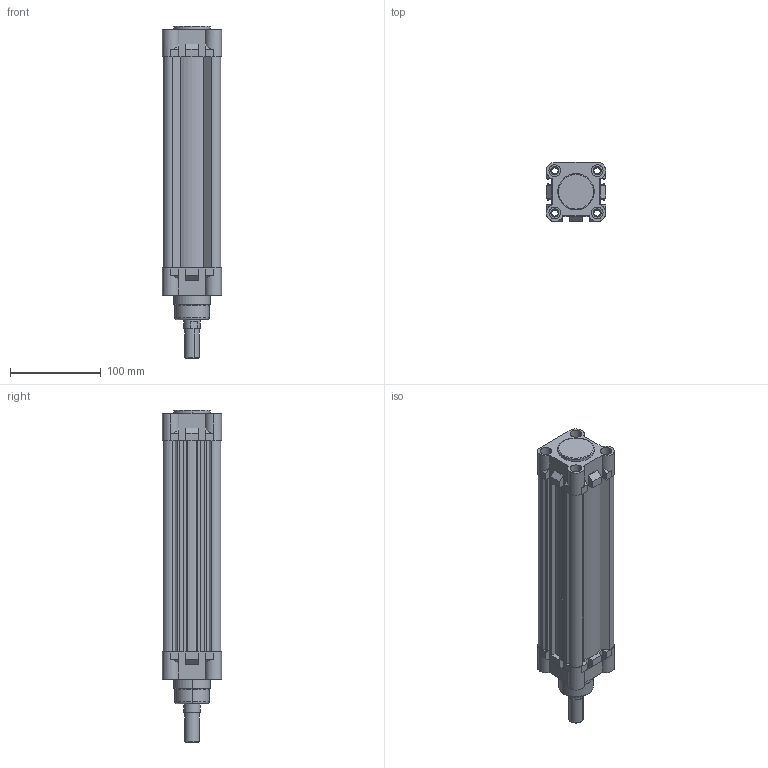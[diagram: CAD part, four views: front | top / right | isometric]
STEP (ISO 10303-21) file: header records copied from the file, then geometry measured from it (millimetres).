
FILE_DESCRIPTION (( 'STEP AP214' ), '1' );
FILE_NAME ('RIC50_200_MY_WEB.STEP', '2020-07-05T17:31:56', ( '' ), ( '' ), 'SwSTEP 2.0', 'SolidWorks 2018', '' );
FILE_SCHEMA (( 'AUTOMOTIVE_DESIGN' ));
Length unit declared in the file: millimetre
Products named in the file (6): 50_ARKA_KAPAK_WEB; 50_BORU; RIC50_200_MY_WEB; 50bogazkecesi; 20_MIL_WEB; 50_ON_KAPAK_WEB
Assembly tree (5 placements, depth 2):
  RIC50_200_MY_WEB
    50_BORU
    50_ARKA_KAPAK_WEB
    50_ON_KAPAK_WEB
    20_MIL_WEB
    50bogazkecesi
Bounding box: 65 x 65 x 365 mm (x, y, z)
Volume: 530307.2 mm3; surface area: 205068.5 mm2
Topology: 5 solids, 5 shells, 576 faces, 1465 edges, 952 vertices
Faces by surface type: plane 265, cylinder 172, bspline 83, cone 40, torus 16
Entity records: 23952 total; most frequent: CARTESIAN_POINT 8155, ORIENTED_EDGE 2930, DIRECTION 2697, EDGE_CURVE 1465, VERTEX_POINT 952, AXIS2_PLACEMENT_3D 919, LINE 859, VECTOR 859
